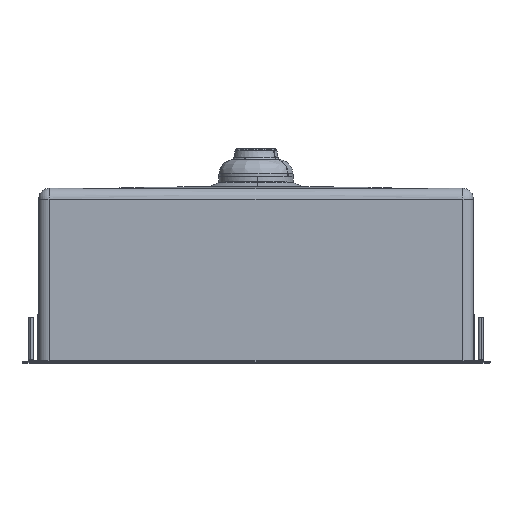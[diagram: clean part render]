
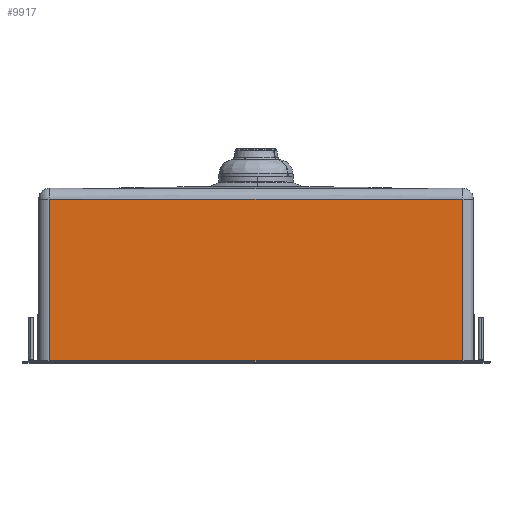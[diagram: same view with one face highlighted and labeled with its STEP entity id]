
A CAD part, top view. The second image highlights one B-rep face of the part: STEP entity #9917.
In plain terms, the highlighted planar face has unit normal (0, 0, 1).
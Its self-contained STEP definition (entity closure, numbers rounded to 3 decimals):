
#252 = LINE ( 'NONE', #17263, #9360 ) ;
#2926 = EDGE_CURVE ( 'NONE', #34507, #28877, #34670, .T. ) ;
#5720 = CARTESIAN_POINT ( 'NONE',  ( -238., 188., 238.5 ) ) ;
#8654 = ORIENTED_EDGE ( 'NONE', *, *, #2926, .T. ) ;
#9360 = VECTOR ( 'NONE', #14708, 1000. ) ;
#9431 = DIRECTION ( 'NONE',  ( 1., 0., 0. ) ) ;
#9473 = VERTEX_POINT ( 'NONE', #22123 ) ;
#9771 = ORIENTED_EDGE ( 'NONE', *, *, #11869, .F. ) ;
#9917 = ADVANCED_FACE ( 'NONE', ( #28149 ), #36347, .F. ) ;
#11869 = EDGE_CURVE ( 'NONE', #19160, #9473, #252, .T. ) ;
#11967 = EDGE_CURVE ( 'NONE', #28877, #9473, #15285, .T. ) ;
#12884 = CARTESIAN_POINT ( 'NONE',  ( -238., 201., 238.5 ) ) ;
#14469 = AXIS2_PLACEMENT_3D ( 'NONE', #12884, #33605, #33988 ) ;
#14708 = DIRECTION ( 'NONE',  ( 0., -1., 0. ) ) ;
#15285 = LINE ( 'NONE', #36781, #17463 ) ;
#15419 = VECTOR ( 'NONE', #37604, 1000. ) ;
#15844 = ORIENTED_EDGE ( 'NONE', *, *, #34870, .T. ) ;
#17263 = CARTESIAN_POINT ( 'NONE',  ( 238., 201., 238.5 ) ) ;
#17463 = VECTOR ( 'NONE', #9431, 1000. ) ;
#18796 = EDGE_LOOP ( 'NONE', ( #8654, #28951, #9771, #15844 ) ) ;
#19160 = VERTEX_POINT ( 'NONE', #35841 ) ;
#19831 = CARTESIAN_POINT ( 'NONE',  ( -238., 201., 238.5 ) ) ;
#20402 = DIRECTION ( 'NONE',  ( -1., 0., 0. ) ) ;
#22123 = CARTESIAN_POINT ( 'NONE',  ( 238., 2., 238.5 ) ) ;
#22956 = LINE ( 'NONE', #5720, #35565 ) ;
#25784 = CARTESIAN_POINT ( 'NONE',  ( -238., 188., 238.5 ) ) ;
#28149 = FACE_OUTER_BOUND ( 'NONE', #18796, .T. ) ;
#28877 = VERTEX_POINT ( 'NONE', #29285 ) ;
#28951 = ORIENTED_EDGE ( 'NONE', *, *, #11967, .T. ) ;
#29285 = CARTESIAN_POINT ( 'NONE',  ( -238., 2., 238.5 ) ) ;
#33605 = DIRECTION ( 'NONE',  ( 0., 0., -1. ) ) ;
#33988 = DIRECTION ( 'NONE',  ( -1., 0., 0. ) ) ;
#34507 = VERTEX_POINT ( 'NONE', #25784 ) ;
#34670 = LINE ( 'NONE', #19831, #15419 ) ;
#34870 = EDGE_CURVE ( 'NONE', #19160, #34507, #22956, .T. ) ;
#35565 = VECTOR ( 'NONE', #20402, 1000. ) ;
#35841 = CARTESIAN_POINT ( 'NONE',  ( 238., 188., 238.5 ) ) ;
#36347 = PLANE ( 'NONE',  #14469 ) ;
#36781 = CARTESIAN_POINT ( 'NONE',  ( 238., 2., 238.5 ) ) ;
#37604 = DIRECTION ( 'NONE',  ( 0., -1., 0. ) ) ;
